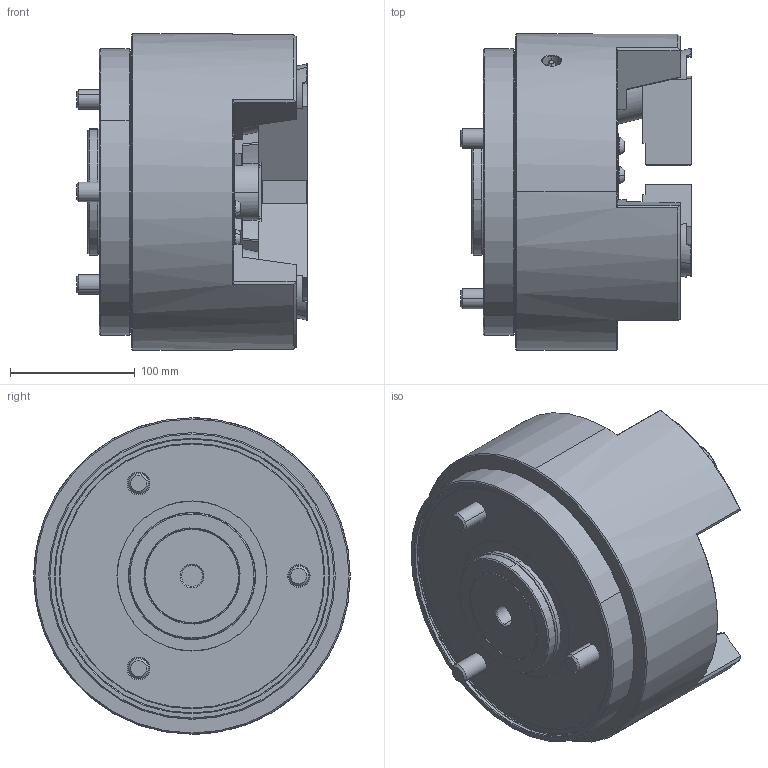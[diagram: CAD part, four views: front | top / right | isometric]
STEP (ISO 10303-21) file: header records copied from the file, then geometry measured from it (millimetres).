
FILE_DESCRIPTION (( 'STEP AP214' ), '1' );
FILE_NAME ('PUB210_UC.STEP', '2019-10-25T03:56:58', ( '' ), ( '' ), 'SwSTEP 2.0', 'SolidWorks 2017', '' );
FILE_SCHEMA (( 'AUTOMOTIVE_DESIGN' ));
Length unit declared in the file: millimetre
Products named in the file (4): 結合; 0030114035; 61P332362; PUB210_UC
Assembly tree (7 placements, depth 2):
  PUB210_UC
    61P332362  x3
    0030114035  x3
    結合
Bounding box: 185 x 254 x 254 mm (x, y, z)
Volume: 5681402.4 mm3; surface area: 376677.2 mm2
Topology: 7 solids, 7 shells, 976 faces, 2453 edges, 1547 vertices
Faces by surface type: plane 487, cone 184, bspline 143, cylinder 129, torus 33
Entity records: 33606 total; most frequent: CARTESIAN_POINT 13554, ORIENTED_EDGE 4410, DIRECTION 3633, EDGE_CURVE 2205, VERTEX_POINT 1409, VECTOR 1223, LINE 1223, AXIS2_PLACEMENT_3D 1205
